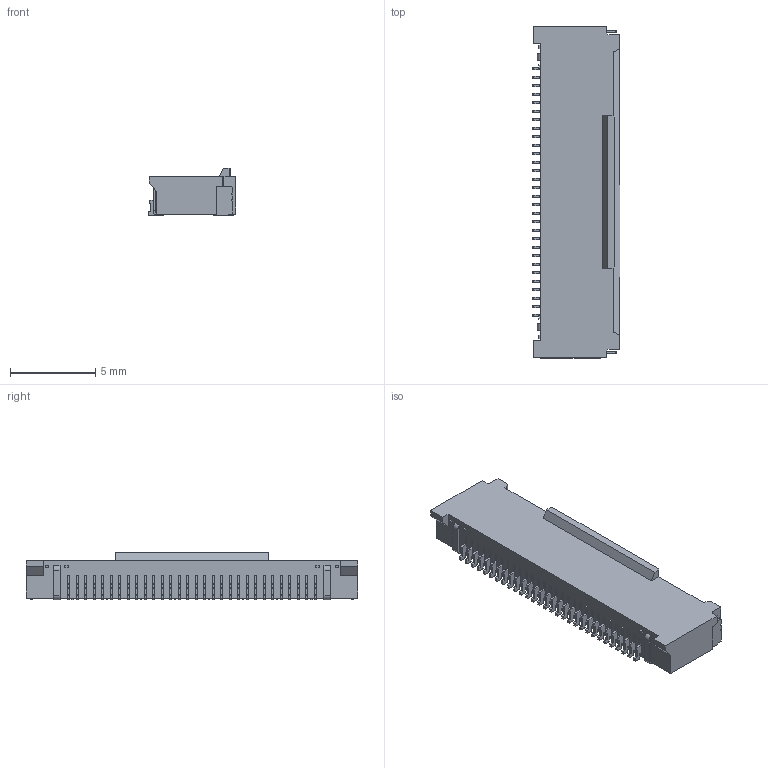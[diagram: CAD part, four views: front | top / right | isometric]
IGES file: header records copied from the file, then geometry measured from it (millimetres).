
Start section: SolidWorks IGES file using analytic representation for surfaces
Global section: file name: Q:\Murata_Atsufumi\6893\●量産見積用_20230413\顧客用\6893RA-30p.IGS; native system: SolidWorks 2021; preprocessor: SolidWorks 2021; author: SW-CPD06; date: 230626.180139; units: millimetre
Bounding box: 5.15 x 19.5 x 2.8 mm (x, y, z)
Surface area: 342.5 mm2 (no closed solid volume)
Topology: 0 solids, 0 shells, 709 faces, 4422 edges, 4422 vertices
Faces by surface type: bspline 497, revolution 212
